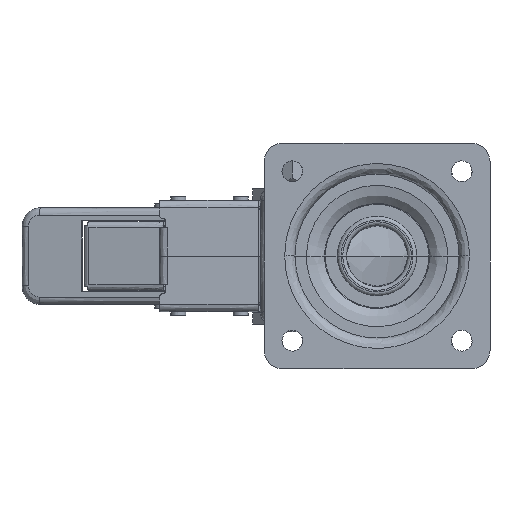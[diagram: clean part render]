
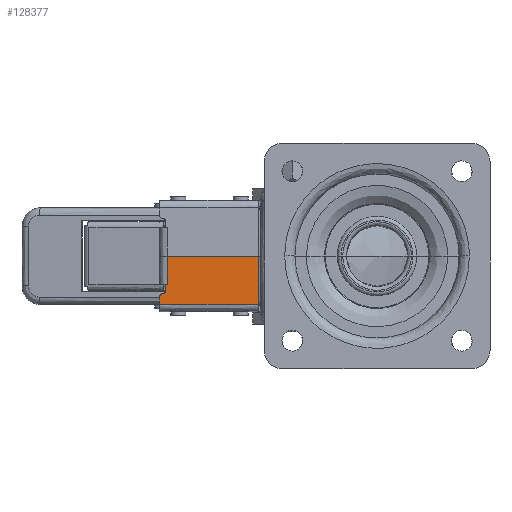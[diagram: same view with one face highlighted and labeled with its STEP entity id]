
A CAD part, top view. The second image highlights one B-rep face of the part: STEP entity #128377.
In plain terms, the highlighted planar face has unit normal (0, 0, 1).
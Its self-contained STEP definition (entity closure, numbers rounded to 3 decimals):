
#3912 = FACE_OUTER_BOUND ( 'NONE', #147261, .T. ) ;
#31417 = LINE ( 'NONE', #110856, #31421 ) ;
#31419 = VECTOR ( 'NONE', #110868, 1000. ) ;
#31421 = VECTOR ( 'NONE', #110857, 1000. ) ;
#31423 = LINE ( 'NONE', #110860, #31419 ) ;
#31425 = LINE ( 'NONE', #110883, #31429 ) ;
#31429 = VECTOR ( 'NONE', #110884, 1000. ) ;
#31432 = VECTOR ( 'NONE', #110897, 1000. ) ;
#31436 = LINE ( 'NONE', #110918, #31444 ) ;
#31437 = VECTOR ( 'NONE', #110937, 1000. ) ;
#31439 = LINE ( 'NONE', #110892, #31432 ) ;
#31444 = VECTOR ( 'NONE', #110919, 1000. ) ;
#31451 = LINE ( 'NONE', #110936, #31437 ) ;
#31464 = LINE ( 'NONE', #110948, #31465 ) ;
#31465 = VECTOR ( 'NONE', #110949, 1000. ) ;
#36546 = PLANE ( 'NONE',  #55720 ) ;
#36561 = CARTESIAN_POINT ( 'NONE',  ( -18.004, 0., 99. ) ) ;
#36568 = DIRECTION ( 'NONE',  ( 0., 0., 1. ) ) ;
#36569 = DIRECTION ( 'NONE',  ( -1., 0., 0. ) ) ;
#55720 = AXIS2_PLACEMENT_3D ( 'NONE', #36561, #36568, #36569 ) ;
#66682 = CARTESIAN_POINT ( 'NONE',  ( -66.504, -15., 99. ) ) ;
#66696 = CARTESIAN_POINT ( 'NONE',  ( -18.004, -25.6, 99. ) ) ;
#66722 = CARTESIAN_POINT ( 'NONE',  ( -66.504, 0., 99. ) ) ;
#66953 = CARTESIAN_POINT ( 'NONE',  ( -70.504, -25.6, 99. ) ) ;
#84014 = EDGE_CURVE ( 'NONE', #172676, #172634, #31417, .T. ) ;
#84018 = EDGE_CURVE ( 'NONE', #172634, #107969, #31423, .T. ) ;
#84024 = EDGE_CURVE ( 'NONE', #172985, #172648, #31425, .T. ) ;
#84029 = EDGE_CURVE ( 'NONE', #107969, #107972, #31439, .T. ) ;
#84032 = EDGE_CURVE ( 'NONE', #107972, #107974, #157375, .T. ) ;
#84035 = EDGE_CURVE ( 'NONE', #107974, #107976, #157366, .T. ) ;
#84036 = EDGE_CURVE ( 'NONE', #107976, #172985, #31436, .T. ) ;
#84043 = EDGE_CURVE ( 'NONE', #172648, #176086, #31451, .T. ) ;
#84049 = EDGE_CURVE ( 'NONE', #176086, #172676, #31464, .T. ) ;
#99777 = CARTESIAN_POINT ( 'NONE',  ( -18.004, 0., 99. ) ) ;
#107969 = VERTEX_POINT ( 'NONE', #148378 ) ;
#107972 = VERTEX_POINT ( 'NONE', #148385 ) ;
#107974 = VERTEX_POINT ( 'NONE', #148390 ) ;
#107976 = VERTEX_POINT ( 'NONE', #148394 ) ;
#109370 = ORIENTED_EDGE ( 'NONE', *, *, #84043, .T. ) ;
#109371 = ORIENTED_EDGE ( 'NONE', *, *, #84049, .T. ) ;
#109373 = ORIENTED_EDGE ( 'NONE', *, *, #84014, .T. ) ;
#109375 = ORIENTED_EDGE ( 'NONE', *, *, #84018, .T. ) ;
#109377 = ORIENTED_EDGE ( 'NONE', *, *, #84029, .T. ) ;
#109379 = ORIENTED_EDGE ( 'NONE', *, *, #84032, .T. ) ;
#109381 = ORIENTED_EDGE ( 'NONE', *, *, #84035, .T. ) ;
#109383 = ORIENTED_EDGE ( 'NONE', *, *, #84036, .T. ) ;
#109384 = ORIENTED_EDGE ( 'NONE', *, *, #84024, .T. ) ;
#110856 = CARTESIAN_POINT ( 'NONE',  ( -66.504, 0., 99. ) ) ;
#110857 = DIRECTION ( 'NONE',  ( 0., -1., 0. ) ) ;
#110860 = CARTESIAN_POINT ( 'NONE',  ( -18.004, -15., 99. ) ) ;
#110868 = DIRECTION ( 'NONE',  ( -1., 0., 0. ) ) ;
#110883 = CARTESIAN_POINT ( 'NONE',  ( -18.004, -25.6, 99. ) ) ;
#110884 = DIRECTION ( 'NONE',  ( 1., 0., 0. ) ) ;
#110892 = CARTESIAN_POINT ( 'NONE',  ( -67.304, 0., 99. ) ) ;
#110893 = CARTESIAN_POINT ( 'NONE',  ( -67.304, -18.4, 99. ) ) ;
#110897 = DIRECTION ( 'NONE',  ( 0., -1., 0. ) ) ;
#110901 = CARTESIAN_POINT ( 'NONE',  ( -68.904, -20., 99. ) ) ;
#110906 = CARTESIAN_POINT ( 'NONE',  ( -67.304, -19.284, 99. ) ) ;
#110907 = CARTESIAN_POINT ( 'NONE',  ( -68.02, -20., 99. ) ) ;
#110908 = CARTESIAN_POINT ( 'NONE',  ( -68.904, -20., 99. ) ) ;
#110915 = CARTESIAN_POINT ( 'NONE',  ( -69.787, -20., 99. ) ) ;
#110916 = CARTESIAN_POINT ( 'NONE',  ( -70.504, -20.716, 99. ) ) ;
#110917 = CARTESIAN_POINT ( 'NONE',  ( -70.504, -21.6, 99. ) ) ;
#110918 = CARTESIAN_POINT ( 'NONE',  ( -70.504, 0., 99. ) ) ;
#110919 = DIRECTION ( 'NONE',  ( 0., -1., 0. ) ) ;
#110936 = CARTESIAN_POINT ( 'NONE',  ( -18.004, 0., 99. ) ) ;
#110937 = DIRECTION ( 'NONE',  ( 0., 1., 0. ) ) ;
#110948 = CARTESIAN_POINT ( 'NONE',  ( -18.004, 0., 99. ) ) ;
#110949 = DIRECTION ( 'NONE',  ( -1., 0., 0. ) ) ;
#128377 = ADVANCED_FACE ( 'NONE', ( #3912 ), #36546, .T. ) ;
#147261 = EDGE_LOOP ( 'NONE', ( #109370, #109371, #109373, #109375, #109377, #109379, #109381, #109383, #109384 ) ) ;
#148378 = CARTESIAN_POINT ( 'NONE',  ( -67.304, -15., 99. ) ) ;
#148385 = CARTESIAN_POINT ( 'NONE',  ( -67.304, -18.4, 99. ) ) ;
#148390 = CARTESIAN_POINT ( 'NONE',  ( -68.904, -20., 99. ) ) ;
#148394 = CARTESIAN_POINT ( 'NONE',  ( -70.504, -21.6, 99. ) ) ;
#157366 = B_SPLINE_CURVE_WITH_KNOTS ( 'NONE', 3,
 ( #110901, #110915, #110916, #110917 ),
 .UNSPECIFIED., .F., .F.,
 ( 4, 4 ),
 ( -0.002, 0. ),
 .UNSPECIFIED. ) ;
#157375 = B_SPLINE_CURVE_WITH_KNOTS ( 'NONE', 3,
 ( #110893, #110906, #110907, #110908 ),
 .UNSPECIFIED., .F., .F.,
 ( 4, 4 ),
 ( 0., 0.002 ),
 .UNSPECIFIED. ) ;
#172634 = VERTEX_POINT ( 'NONE', #66682 ) ;
#172648 = VERTEX_POINT ( 'NONE', #66696 ) ;
#172676 = VERTEX_POINT ( 'NONE', #66722 ) ;
#172985 = VERTEX_POINT ( 'NONE', #66953 ) ;
#176086 = VERTEX_POINT ( 'NONE', #99777 ) ;
